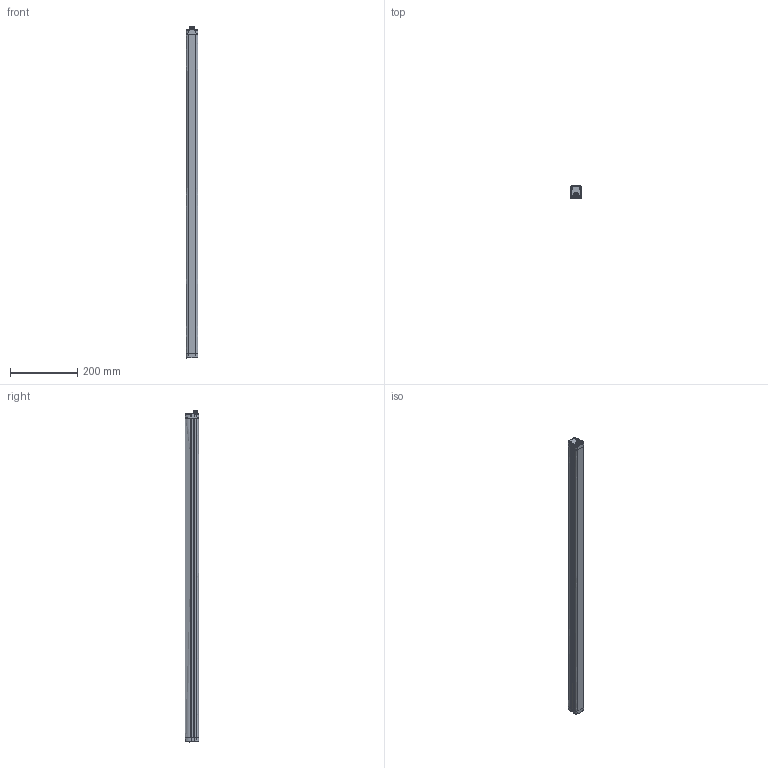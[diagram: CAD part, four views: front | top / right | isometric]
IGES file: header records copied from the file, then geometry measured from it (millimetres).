
Global section: file name: C:\Users\fguttadauro\OneDrive - Datalogic S.p.a\Desktop\AP036495_00-DS2-05-07-090-JV TX.igs; native system: NX V1926; preprocessor: SIEMENS PLM Software NX 1946; date: 20220408.152205; units: millimetre
Bounding box: 35 x 40.1 x 991 mm (x, y, z)
Surface area: 193542.7 mm2 (no closed solid volume)
Topology: 0 solids, 0 shells, 728 faces, 4334 edges, 4265 vertices
Faces by surface type: bspline 728
